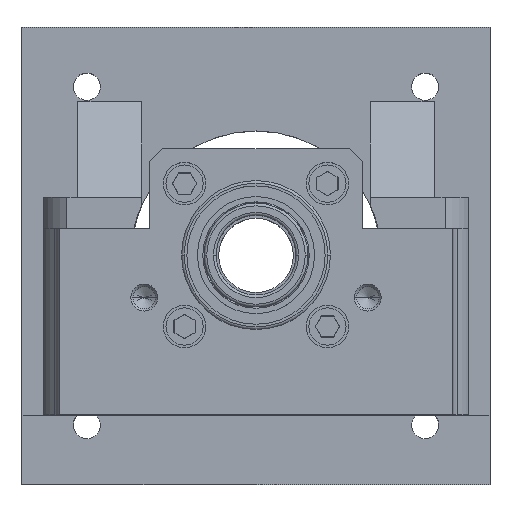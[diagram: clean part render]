
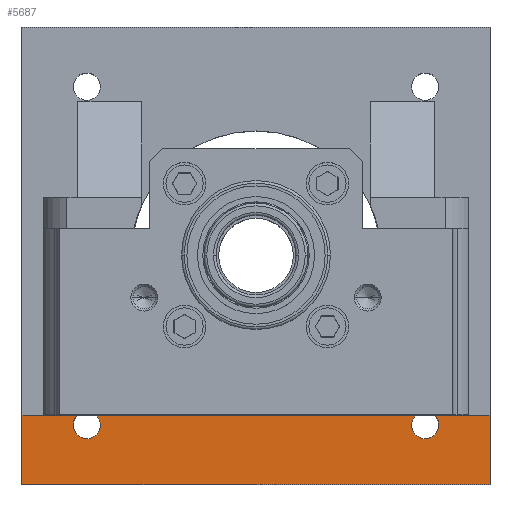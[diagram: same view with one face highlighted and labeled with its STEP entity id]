
A CAD part, top view. The second image highlights one B-rep face of the part: STEP entity #5687.
In plain terms, the highlighted planar face has unit normal (0, 0, 1).
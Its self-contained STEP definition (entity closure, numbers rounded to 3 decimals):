
#7 = CARTESIAN_POINT ( 'NONE',  ( 34.37, -31.82, -91. ) ) ;
#320 = DIRECTION ( 'NONE',  ( -1., 0., 0. ) ) ;
#389 = DIRECTION ( 'NONE',  ( 0., -1., 0. ) ) ;
#648 = CARTESIAN_POINT ( 'NONE',  ( -44., -43., -91. ) ) ;
#718 = VECTOR ( 'NONE', #389, 1000. ) ;
#866 = DIRECTION ( 'NONE',  ( 0., -1., 0. ) ) ;
#966 = DIRECTION ( 'NONE',  ( -1., 0., 0. ) ) ;
#1101 = LINE ( 'NONE', #7709, #3652 ) ;
#1105 = DIRECTION ( 'NONE',  ( 0., 0., 1. ) ) ;
#1196 = EDGE_CURVE ( 'NONE', #10985, #5374, #12244, .T. ) ;
#1275 = AXIS2_PLACEMENT_3D ( 'NONE', #6666, #11963, #12789 ) ;
#1346 = VECTOR ( 'NONE', #12490, 1000. ) ;
#1484 = CIRCLE ( 'NONE', #6883, 2.55 ) ;
#1515 = CARTESIAN_POINT ( 'NONE',  ( -31.82, -31.82, -91. ) ) ;
#1546 = VERTEX_POINT ( 'NONE', #7264 ) ;
#1558 = LINE ( 'NONE', #648, #2948 ) ;
#1772 = DIRECTION ( 'NONE',  ( 0., 0., -1. ) ) ;
#1828 = CARTESIAN_POINT ( 'NONE',  ( 44., -30., -91. ) ) ;
#2131 = CARTESIAN_POINT ( 'NONE',  ( 44., -43., -91. ) ) ;
#2140 = ORIENTED_EDGE ( 'NONE', *, *, #3371, .T. ) ;
#2309 = EDGE_CURVE ( 'NONE', #13966, #7112, #1101, .T. ) ;
#2344 = EDGE_CURVE ( 'NONE', #9268, #13966, #7146, .T. ) ;
#2348 = CIRCLE ( 'NONE', #5684, 2.55 ) ;
#2759 = CIRCLE ( 'NONE', #7984, 2.55 ) ;
#2764 = DIRECTION ( 'NONE',  ( 0., 0., 1. ) ) ;
#2766 = EDGE_CURVE ( 'NONE', #1546, #7056, #2759, .T. ) ;
#2948 = VECTOR ( 'NONE', #866, 1000. ) ;
#3371 = EDGE_CURVE ( 'NONE', #9268, #3392, #9112, .T. ) ;
#3392 = VERTEX_POINT ( 'NONE', #12199 ) ;
#3396 = DIRECTION ( 'NONE',  ( 0., 0., 1. ) ) ;
#3652 = VECTOR ( 'NONE', #966, 1000. ) ;
#3789 = ORIENTED_EDGE ( 'NONE', *, *, #2766, .F. ) ;
#3792 = VERTEX_POINT ( 'NONE', #6016 ) ;
#3935 = EDGE_CURVE ( 'NONE', #13750, #1546, #11525, .T. ) ;
#4170 = PLANE ( 'NONE',  #13303 ) ;
#4485 = EDGE_CURVE ( 'NONE', #9472, #7112, #1558, .T. ) ;
#4496 = DIRECTION ( 'NONE',  ( -1., 0., 0. ) ) ;
#4600 = EDGE_CURVE ( 'NONE', #3792, #11369, #12588, .T. ) ;
#4649 = ORIENTED_EDGE ( 'NONE', *, *, #2344, .F. ) ;
#4891 = DIRECTION ( 'NONE',  ( 0., 0., 1. ) ) ;
#5195 = EDGE_CURVE ( 'NONE', #7056, #5374, #10751, .T. ) ;
#5374 = VERTEX_POINT ( 'NONE', #7253 ) ;
#5684 = AXIS2_PLACEMENT_3D ( 'NONE', #9366, #2764, #10479 ) ;
#5687 = ADVANCED_FACE ( 'NONE', ( #5901 ), #4170, .F. ) ;
#5778 = CARTESIAN_POINT ( 'NONE',  ( 30.034, -30., -91. ) ) ;
#5901 = FACE_OUTER_BOUND ( 'NONE', #7820, .T. ) ;
#6016 = CARTESIAN_POINT ( 'NONE',  ( 29.27, -31.82, -91. ) ) ;
#6157 = DIRECTION ( 'NONE',  ( 0., 0., 1. ) ) ;
#6302 = ORIENTED_EDGE ( 'NONE', *, *, #2309, .F. ) ;
#6522 = EDGE_CURVE ( 'NONE', #13750, #9472, #7437, .T. ) ;
#6666 = CARTESIAN_POINT ( 'NONE',  ( -31.82, -31.82, -91. ) ) ;
#6883 = AXIS2_PLACEMENT_3D ( 'NONE', #12768, #6157, #13875 ) ;
#6888 = CARTESIAN_POINT ( 'NONE',  ( -44., -30., -91. ) ) ;
#7056 = VERTEX_POINT ( 'NONE', #14108 ) ;
#7112 = VERTEX_POINT ( 'NONE', #12176 ) ;
#7146 = LINE ( 'NONE', #2131, #718 ) ;
#7149 = ORIENTED_EDGE ( 'NONE', *, *, #3935, .F. ) ;
#7253 = CARTESIAN_POINT ( 'NONE',  ( -30.034, -30., -91. ) ) ;
#7264 = CARTESIAN_POINT ( 'NONE',  ( -34.37, -31.82, -91. ) ) ;
#7437 = LINE ( 'NONE', #9749, #12955 ) ;
#7468 = ORIENTED_EDGE ( 'NONE', *, *, #4485, .T. ) ;
#7709 = CARTESIAN_POINT ( 'NONE',  ( 44., -43., -91. ) ) ;
#7820 = EDGE_LOOP ( 'NONE', ( #10499, #7468, #6302, #4649, #2140, #13202, #9740, #8595, #7861, #12447, #3789, #7149 ) ) ;
#7861 = ORIENTED_EDGE ( 'NONE', *, *, #1196, .T. ) ;
#7984 = AXIS2_PLACEMENT_3D ( 'NONE', #12374, #4891, #8251 ) ;
#8251 = DIRECTION ( 'NONE',  ( -1., 0., 0. ) ) ;
#8273 = CARTESIAN_POINT ( 'NONE',  ( 44., -43., -91. ) ) ;
#8595 = ORIENTED_EDGE ( 'NONE', *, *, #10724, .F. ) ;
#8839 = CARTESIAN_POINT ( 'NONE',  ( -33.606, -30., -91. ) ) ;
#9112 = LINE ( 'NONE', #12532, #1346 ) ;
#9268 = VERTEX_POINT ( 'NONE', #1828 ) ;
#9366 = CARTESIAN_POINT ( 'NONE',  ( 31.82, -31.82, -91. ) ) ;
#9472 = VERTEX_POINT ( 'NONE', #6888 ) ;
#9485 = DIRECTION ( 'NONE',  ( -1., 0., 0. ) ) ;
#9605 = DIRECTION ( 'NONE',  ( -1., 0., 0. ) ) ;
#9740 = ORIENTED_EDGE ( 'NONE', *, *, #4600, .F. ) ;
#9749 = CARTESIAN_POINT ( 'NONE',  ( 44., -30., -91. ) ) ;
#10479 = DIRECTION ( 'NONE',  ( -1., 0., 0. ) ) ;
#10499 = ORIENTED_EDGE ( 'NONE', *, *, #6522, .T. ) ;
#10567 = DIRECTION ( 'NONE',  ( -1., 0., 0. ) ) ;
#10585 = CARTESIAN_POINT ( 'NONE',  ( 31.82, -31.82, -91. ) ) ;
#10724 = EDGE_CURVE ( 'NONE', #10985, #3792, #1484, .T. ) ;
#10751 = CIRCLE ( 'NONE', #1275, 2.55 ) ;
#10985 = VERTEX_POINT ( 'NONE', #5778 ) ;
#11369 = VERTEX_POINT ( 'NONE', #7 ) ;
#11417 = CARTESIAN_POINT ( 'NONE',  ( 44., -43., -91. ) ) ;
#11502 = EDGE_CURVE ( 'NONE', #11369, #3392, #2348, .T. ) ;
#11525 = CIRCLE ( 'NONE', #11527, 2.55 ) ;
#11527 = AXIS2_PLACEMENT_3D ( 'NONE', #1515, #1105, #320 ) ;
#11717 = AXIS2_PLACEMENT_3D ( 'NONE', #10585, #3396, #10567 ) ;
#11829 = CARTESIAN_POINT ( 'NONE',  ( 44., -30., -91. ) ) ;
#11963 = DIRECTION ( 'NONE',  ( 0., 0., 1. ) ) ;
#12176 = CARTESIAN_POINT ( 'NONE',  ( -44., -43., -91. ) ) ;
#12199 = CARTESIAN_POINT ( 'NONE',  ( 33.606, -30., -91. ) ) ;
#12244 = LINE ( 'NONE', #11829, #13953 ) ;
#12374 = CARTESIAN_POINT ( 'NONE',  ( -31.82, -31.82, -91. ) ) ;
#12447 = ORIENTED_EDGE ( 'NONE', *, *, #5195, .F. ) ;
#12490 = DIRECTION ( 'NONE',  ( -1., 0., 0. ) ) ;
#12532 = CARTESIAN_POINT ( 'NONE',  ( 44., -30., -91. ) ) ;
#12588 = CIRCLE ( 'NONE', #11717, 2.55 ) ;
#12768 = CARTESIAN_POINT ( 'NONE',  ( 31.82, -31.82, -91. ) ) ;
#12789 = DIRECTION ( 'NONE',  ( -1., 0., 0. ) ) ;
#12955 = VECTOR ( 'NONE', #9605, 1000. ) ;
#13202 = ORIENTED_EDGE ( 'NONE', *, *, #11502, .F. ) ;
#13303 = AXIS2_PLACEMENT_3D ( 'NONE', #11417, #1772, #9485 ) ;
#13750 = VERTEX_POINT ( 'NONE', #8839 ) ;
#13875 = DIRECTION ( 'NONE',  ( -1., 0., 0. ) ) ;
#13953 = VECTOR ( 'NONE', #4496, 1000. ) ;
#13966 = VERTEX_POINT ( 'NONE', #8273 ) ;
#14108 = CARTESIAN_POINT ( 'NONE',  ( -29.27, -31.82, -91. ) ) ;
